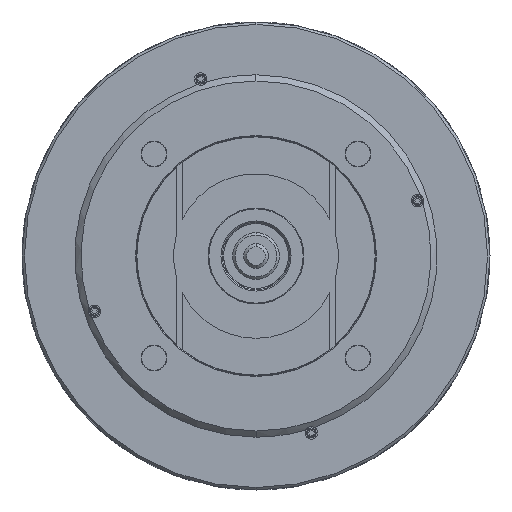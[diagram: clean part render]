
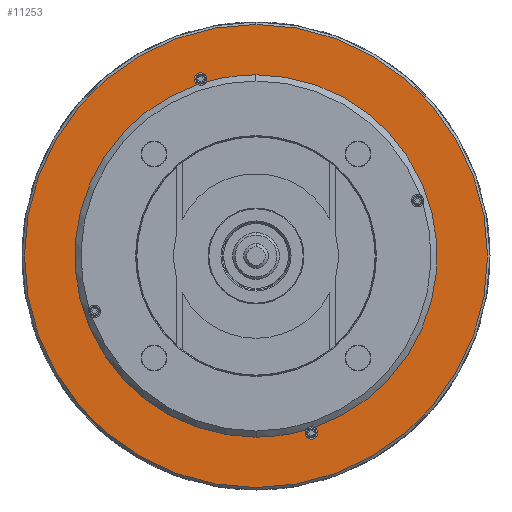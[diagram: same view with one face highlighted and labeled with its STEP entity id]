
A CAD part, left-side view. The second image highlights one B-rep face of the part: STEP entity #11253.
In plain terms, the highlighted planar face has unit normal (-1, 0, 0).
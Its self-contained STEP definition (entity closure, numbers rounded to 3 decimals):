
#51 = VERTEX_POINT ( 'NONE', #18696 ) ;
#192 = DIRECTION ( 'NONE',  ( -1., 0., 0. ) ) ;
#566 = EDGE_CURVE ( 'NONE', #16386, #38061, #10475, .T. ) ;
#1780 = CARTESIAN_POINT ( 'NONE',  ( -130., 0., -147.5 ) ) ;
#1788 = VERTEX_POINT ( 'NONE', #9140 ) ;
#2105 = EDGE_CURVE ( 'NONE', #38748, #1788, #34875, .T. ) ;
#2386 = DIRECTION ( 'NONE',  ( -1., 0., 0. ) ) ;
#2843 = DIRECTION ( 'NONE',  ( 1., 0., 0. ) ) ;
#4546 = DIRECTION ( 'NONE',  ( 0., 0., -1. ) ) ;
#5648 = AXIS2_PLACEMENT_3D ( 'NONE', #18872, #79679, #18440 ) ;
#7259 = VERTEX_POINT ( 'NONE', #51616 ) ;
#7484 = CIRCLE ( 'NONE', #60253, 147.5 ) ;
#8848 = DIRECTION ( 'NONE',  ( 0., 0., 1. ) ) ;
#9140 = CARTESIAN_POINT ( 'NONE',  ( -130., 47.596, 139.61 ) ) ;
#9532 = CARTESIAN_POINT ( 'NONE',  ( -130., 0., 0. ) ) ;
#9808 = DIRECTION ( 'NONE',  ( 0., 0., 1. ) ) ;
#10475 = CIRCLE ( 'NONE', #50398, 147.5 ) ;
#10688 = ORIENTED_EDGE ( 'NONE', *, *, #566, .T. ) ;
#11253 = ADVANCED_FACE ( 'NONE', ( #63108, #42985 ), #70267, .T. ) ;
#12035 = AXIS2_PLACEMENT_3D ( 'NONE', #77228, #36547, #8848 ) ;
#12316 = ORIENTED_EDGE ( 'NONE', *, *, #66099, .T. ) ;
#12925 = CARTESIAN_POINT ( 'NONE',  ( -130., 0., 0. ) ) ;
#14103 = DIRECTION ( 'NONE',  ( 0., 0., 1. ) ) ;
#14226 = EDGE_CURVE ( 'NONE', #16386, #38748, #20673, .T. ) ;
#14236 = VERTEX_POINT ( 'NONE', #84777 ) ;
#16386 = VERTEX_POINT ( 'NONE', #58555 ) ;
#17867 = DIRECTION ( 'NONE',  ( 1., 0., 0. ) ) ;
#18440 = DIRECTION ( 'NONE',  ( 0., 0., -1. ) ) ;
#18696 = CARTESIAN_POINT ( 'NONE',  ( -130., 0., 188.5 ) ) ;
#18872 = CARTESIAN_POINT ( 'NONE',  ( -130., 0., 0. ) ) ;
#19805 = CIRCLE ( 'NONE', #52565, 147.5 ) ;
#20365 = EDGE_LOOP ( 'NONE', ( #40992, #39035, #23416, #37817, #34629, #10688, #12316, #51445 ) ) ;
#20673 = CIRCLE ( 'NONE', #12035, 5.1 ) ;
#22558 = AXIS2_PLACEMENT_3D ( 'NONE', #88227, #192, #26093 ) ;
#23416 = ORIENTED_EDGE ( 'NONE', *, *, #59931, .T. ) ;
#23683 = ORIENTED_EDGE ( 'NONE', *, *, #25851, .F. ) ;
#25647 = CIRCLE ( 'NONE', #5648, 147.5 ) ;
#25851 = EDGE_CURVE ( 'NONE', #51, #7259, #43746, .T. ) ;
#26093 = DIRECTION ( 'NONE',  ( 0., 0., 1. ) ) ;
#29114 = DIRECTION ( 'NONE',  ( 1., 0., 0. ) ) ;
#29364 = AXIS2_PLACEMENT_3D ( 'NONE', #63549, #2386, #29621 ) ;
#29621 = DIRECTION ( 'NONE',  ( 0., 0., 1. ) ) ;
#34044 = AXIS2_PLACEMENT_3D ( 'NONE', #68604, #61887, #14103 ) ;
#34084 = CARTESIAN_POINT ( 'NONE',  ( -130., 0., 0. ) ) ;
#34629 = ORIENTED_EDGE ( 'NONE', *, *, #14226, .F. ) ;
#34875 = CIRCLE ( 'NONE', #87666, 5.1 ) ;
#36547 = DIRECTION ( 'NONE',  ( -1., 0., 0. ) ) ;
#37817 = ORIENTED_EDGE ( 'NONE', *, *, #2105, .F. ) ;
#38061 = VERTEX_POINT ( 'NONE', #54116 ) ;
#38748 = VERTEX_POINT ( 'NONE', #65353 ) ;
#39035 = ORIENTED_EDGE ( 'NONE', *, *, #42769, .T. ) ;
#40992 = ORIENTED_EDGE ( 'NONE', *, *, #41197, .F. ) ;
#41197 = EDGE_CURVE ( 'NONE', #88360, #54587, #88261, .T. ) ;
#42769 = EDGE_CURVE ( 'NONE', #88360, #68077, #25647, .T. ) ;
#42985 = FACE_OUTER_BOUND ( 'NONE', #80725, .T. ) ;
#43746 = CIRCLE ( 'NONE', #87994, 188.5 ) ;
#50398 = AXIS2_PLACEMENT_3D ( 'NONE', #72895, #50997, #4546 ) ;
#50477 = CIRCLE ( 'NONE', #59111, 188.5 ) ;
#50997 = DIRECTION ( 'NONE',  ( 1., 0., 0. ) ) ;
#51445 = ORIENTED_EDGE ( 'NONE', *, *, #75816, .F. ) ;
#51616 = CARTESIAN_POINT ( 'NONE',  ( -130., 0., -188.5 ) ) ;
#52565 = AXIS2_PLACEMENT_3D ( 'NONE', #34084, #29114, #76516 ) ;
#54116 = CARTESIAN_POINT ( 'NONE',  ( -130., 0., 147.5 ) ) ;
#54587 = VERTEX_POINT ( 'NONE', #73446 ) ;
#58555 = CARTESIAN_POINT ( 'NONE',  ( -130., 40.367, 141.869 ) ) ;
#59111 = AXIS2_PLACEMENT_3D ( 'NONE', #59636, #67198, #79338 ) ;
#59636 = CARTESIAN_POINT ( 'NONE',  ( -130., 0., 0. ) ) ;
#59931 = EDGE_CURVE ( 'NONE', #68077, #1788, #19805, .T. ) ;
#60253 = AXIS2_PLACEMENT_3D ( 'NONE', #9532, #2843, #72085 ) ;
#61073 = CIRCLE ( 'NONE', #22558, 5.1 ) ;
#61887 = DIRECTION ( 'NONE',  ( -1., 0., 0. ) ) ;
#62347 = CARTESIAN_POINT ( 'NONE',  ( -130., -40.367, -141.869 ) ) ;
#63108 = FACE_BOUND ( 'NONE', #20365, .T. ) ;
#63549 = CARTESIAN_POINT ( 'NONE',  ( -130., 133.29, -133.29 ) ) ;
#65193 = DIRECTION ( 'NONE',  ( -1., 0., 0. ) ) ;
#65353 = CARTESIAN_POINT ( 'NONE',  ( -130., 45., 149.1 ) ) ;
#66099 = EDGE_CURVE ( 'NONE', #38061, #14236, #7484, .T. ) ;
#67198 = DIRECTION ( 'NONE',  ( 1., 0., 0. ) ) ;
#67412 = DIRECTION ( 'NONE',  ( 0., 0., -1. ) ) ;
#68077 = VERTEX_POINT ( 'NONE', #1780 ) ;
#68604 = CARTESIAN_POINT ( 'NONE',  ( -130., -45., -144. ) ) ;
#69581 = EDGE_CURVE ( 'NONE', #7259, #51, #50477, .T. ) ;
#70267 = PLANE ( 'NONE',  #29364 ) ;
#71916 = CARTESIAN_POINT ( 'NONE',  ( -130., 45., 144. ) ) ;
#72085 = DIRECTION ( 'NONE',  ( 0., 0., -1. ) ) ;
#72895 = CARTESIAN_POINT ( 'NONE',  ( -130., 0., 0. ) ) ;
#73446 = CARTESIAN_POINT ( 'NONE',  ( -130., -45., -149.1 ) ) ;
#75816 = EDGE_CURVE ( 'NONE', #54587, #14236, #61073, .T. ) ;
#76516 = DIRECTION ( 'NONE',  ( 0., 0., -1. ) ) ;
#77228 = CARTESIAN_POINT ( 'NONE',  ( -130., 45., 144. ) ) ;
#79338 = DIRECTION ( 'NONE',  ( 0., 0., -1. ) ) ;
#79679 = DIRECTION ( 'NONE',  ( 1., 0., 0. ) ) ;
#80725 = EDGE_LOOP ( 'NONE', ( #88298, #23683 ) ) ;
#84777 = CARTESIAN_POINT ( 'NONE',  ( -130., -47.596, -139.61 ) ) ;
#87666 = AXIS2_PLACEMENT_3D ( 'NONE', #71916, #65193, #9808 ) ;
#87994 = AXIS2_PLACEMENT_3D ( 'NONE', #12925, #17867, #67412 ) ;
#88227 = CARTESIAN_POINT ( 'NONE',  ( -130., -45., -144. ) ) ;
#88261 = CIRCLE ( 'NONE', #34044, 5.1 ) ;
#88298 = ORIENTED_EDGE ( 'NONE', *, *, #69581, .F. ) ;
#88360 = VERTEX_POINT ( 'NONE', #62347 ) ;
